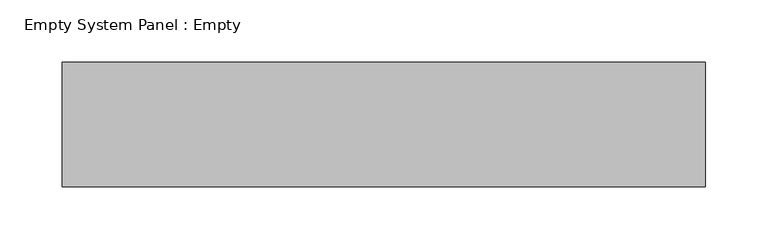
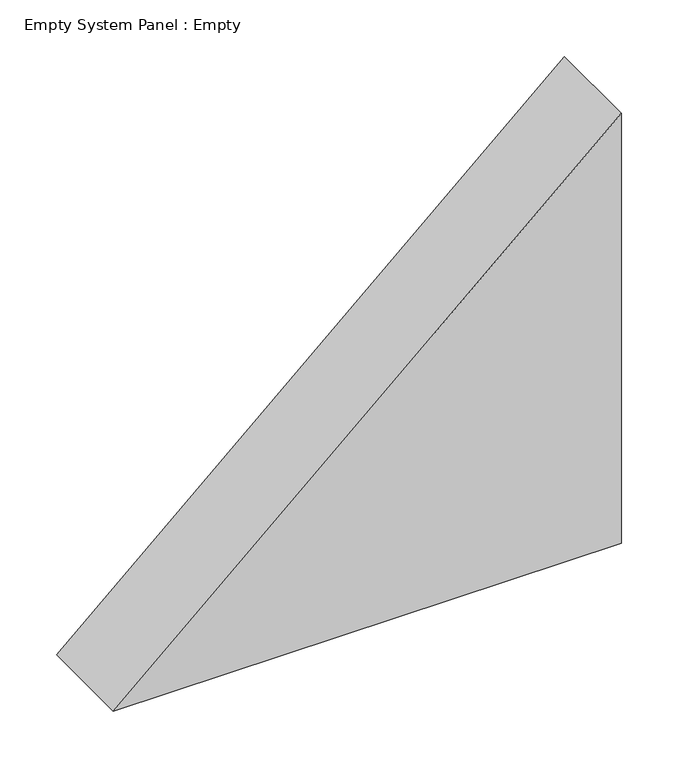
"""IFC4 building model written with IfcOpenShell, lengths in millimetres: plate geometry, Empty System Panel : Empty."""

from ifc_helpers import new_model, si_unit, frame, origin, place, context, project, spatial, polyline, outline, extrude, source, transform, mapped, element, save


def empty_system_panel_empty_9d0ff2d9(model_context):
    return source(origin(), model_context, "Body", "SweptSolid", [
        extrude(outline(polyline([(0.0, -258.7446431), (0.0, 258.7446431), (462.9024974, 258.7446431), (0.0, -258.7446431)])), frame((0.0, -50.0, 0.0), z_axis=(0.0, 1.0, 0.0), x_axis=(0.0, 0.0, 1.0)), (0.0, 0.0, 1.0), 100.0),
    ])


if __name__ == "__main__":
    model = new_model("IFC4")
    model_context = context("Model", 3, world=origin())
    ifc_project = project(units=[si_unit("LENGTHUNIT", "METRE", prefix="MILLI")], contexts=[model_context])
    site = spatial("IfcSite", under=ifc_project)
    building = spatial("IfcBuilding", under=site)
    placement = place(None, origin())
    empty_system_panel_empty_shape = empty_system_panel_empty_9d0ff2d9(model_context)
    element("IfcPlate", 1, ObjectType="Empty System Panel : Empty", at=placement, inside=building, context=model_context, shape_type="MappedRepresentation", body=[
        mapped(empty_system_panel_empty_shape, transform((0.0, 0.0, 0.0), x_axis=(1.0, 0.0, 0.0), y_axis=(0.0, 1.0, 0.0), z_axis=(0.0, 0.0, 1.0))),
    ])
    save(model, "model.ifc")
